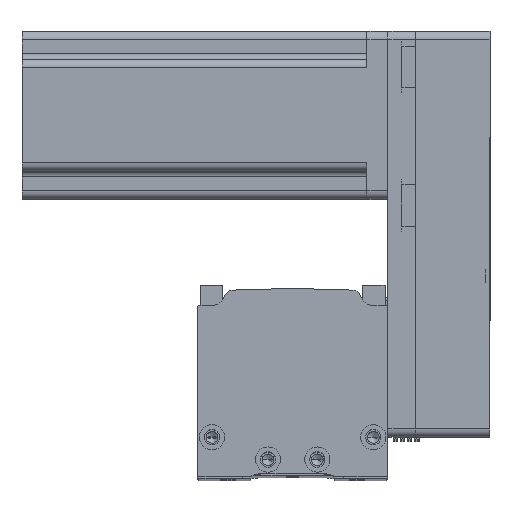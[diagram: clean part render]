
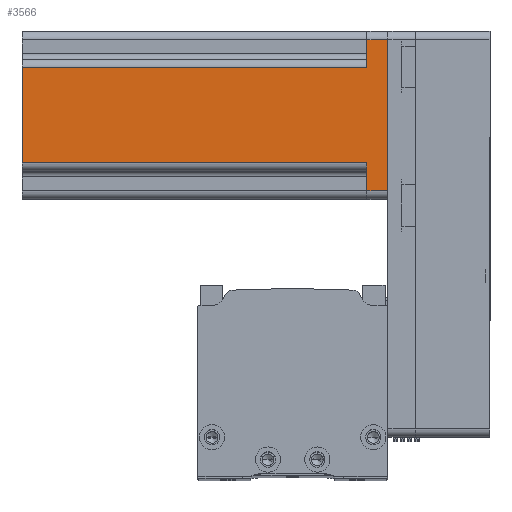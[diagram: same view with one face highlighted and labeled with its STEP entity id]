
A CAD part, top view. The second image highlights one B-rep face of the part: STEP entity #3566.
In plain terms, the highlighted planar face has unit normal (0, 0, 1) as drawn and (0, -1, 0) by its records, which use the part's own axes.
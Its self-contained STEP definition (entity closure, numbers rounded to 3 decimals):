
#801 = LINE ( 'NONE', #30341, #37247 ) ;
#912 = CARTESIAN_POINT ( 'NONE',  ( 30., -30., 130.7 ) ) ;
#1298 = DIRECTION ( 'NONE',  ( 1., 0., 0. ) ) ;
#1961 = EDGE_CURVE ( 'NONE', #22901, #7963, #28151, .T. ) ;
#2006 = VERTEX_POINT ( 'NONE', #27437 ) ;
#2857 = EDGE_CURVE ( 'NONE', #14636, #22901, #37417, .T. ) ;
#3566 = ADVANCED_FACE ( 'NONE', ( #11996 ), #7871, .F. ) ;
#4109 = CARTESIAN_POINT ( 'NONE',  ( -17., -30., 130.7 ) ) ;
#4470 = DIRECTION ( 'NONE',  ( -1., 0., 0. ) ) ;
#5075 = DIRECTION ( 'NONE',  ( 0., 0., -1. ) ) ;
#5664 = DIRECTION ( 'NONE',  ( 1., 0., 0. ) ) ;
#6023 = VECTOR ( 'NONE', #36600, 1000. ) ;
#6552 = EDGE_CURVE ( 'NONE', #7028, #2006, #15518, .T. ) ;
#7028 = VERTEX_POINT ( 'NONE', #4109 ) ;
#7824 = VECTOR ( 'NONE', #1298, 1000. ) ;
#7830 = CARTESIAN_POINT ( 'NONE',  ( 27., -30., 7.5 ) ) ;
#7871 = PLANE ( 'NONE',  #13439 ) ;
#7953 = VECTOR ( 'NONE', #12436, 1000. ) ;
#7963 = VERTEX_POINT ( 'NONE', #18345 ) ;
#9380 = ORIENTED_EDGE ( 'NONE', *, *, #2857, .T. ) ;
#9382 = VECTOR ( 'NONE', #16203, 1000. ) ;
#9630 = EDGE_CURVE ( 'NONE', #7028, #25110, #27849, .T. ) ;
#9744 = EDGE_LOOP ( 'NONE', ( #38877, #38686, #19482, #37267, #23691, #9380, #36194, #29584 ) ) ;
#9992 = LINE ( 'NONE', #39842, #26479 ) ;
#11996 = FACE_OUTER_BOUND ( 'NONE', #9744, .T. ) ;
#12436 = DIRECTION ( 'NONE',  ( 1., 0., 0. ) ) ;
#13439 = AXIS2_PLACEMENT_3D ( 'NONE', #912, #25623, #4470 ) ;
#13960 = CARTESIAN_POINT ( 'NONE',  ( -27., -30., 0. ) ) ;
#14636 = VERTEX_POINT ( 'NONE', #17655 ) ;
#15518 = LINE ( 'NONE', #33009, #42547 ) ;
#16203 = DIRECTION ( 'NONE',  ( -1., 0., 0. ) ) ;
#17255 = LINE ( 'NONE', #22502, #7824 ) ;
#17655 = CARTESIAN_POINT ( 'NONE',  ( 27., -30., 0. ) ) ;
#18345 = CARTESIAN_POINT ( 'NONE',  ( 17., -30., 7.5 ) ) ;
#19393 = EDGE_CURVE ( 'NONE', #22772, #22787, #9992, .T. ) ;
#19482 = ORIENTED_EDGE ( 'NONE', *, *, #38232, .F. ) ;
#22502 = CARTESIAN_POINT ( 'NONE',  ( -20., -30., 7.5 ) ) ;
#22772 = VERTEX_POINT ( 'NONE', #42189 ) ;
#22787 = VERTEX_POINT ( 'NONE', #13960 ) ;
#22901 = VERTEX_POINT ( 'NONE', #7830 ) ;
#23691 = ORIENTED_EDGE ( 'NONE', *, *, #26472, .T. ) ;
#25110 = VERTEX_POINT ( 'NONE', #41490 ) ;
#25623 = DIRECTION ( 'NONE',  ( 0., 1., 0. ) ) ;
#26472 = EDGE_CURVE ( 'NONE', #22787, #14636, #801, .T. ) ;
#26479 = VECTOR ( 'NONE', #29359, 1000. ) ;
#27437 = CARTESIAN_POINT ( 'NONE',  ( -17., -30., 7.5 ) ) ;
#27520 = CARTESIAN_POINT ( 'NONE',  ( 27., -30., 130.7 ) ) ;
#27849 = LINE ( 'NONE', #44187, #7953 ) ;
#28151 = LINE ( 'NONE', #40861, #9382 ) ;
#29359 = DIRECTION ( 'NONE',  ( 0., 0., -1. ) ) ;
#29584 = ORIENTED_EDGE ( 'NONE', *, *, #33656, .T. ) ;
#30341 = CARTESIAN_POINT ( 'NONE',  ( 30., -30., 0. ) ) ;
#33009 = CARTESIAN_POINT ( 'NONE',  ( -17., -30., 130.7 ) ) ;
#33656 = EDGE_CURVE ( 'NONE', #7963, #25110, #42450, .T. ) ;
#36194 = ORIENTED_EDGE ( 'NONE', *, *, #1961, .T. ) ;
#36276 = VECTOR ( 'NONE', #45397, 1000. ) ;
#36600 = DIRECTION ( 'NONE',  ( 0., 0., 1. ) ) ;
#37247 = VECTOR ( 'NONE', #5664, 1000. ) ;
#37267 = ORIENTED_EDGE ( 'NONE', *, *, #19393, .T. ) ;
#37417 = LINE ( 'NONE', #27520, #36276 ) ;
#38232 = EDGE_CURVE ( 'NONE', #22772, #2006, #17255, .T. ) ;
#38686 = ORIENTED_EDGE ( 'NONE', *, *, #6552, .T. ) ;
#38877 = ORIENTED_EDGE ( 'NONE', *, *, #9630, .F. ) ;
#39842 = CARTESIAN_POINT ( 'NONE',  ( -27., -30., 130.7 ) ) ;
#40861 = CARTESIAN_POINT ( 'NONE',  ( 20., -30., 7.5 ) ) ;
#41490 = CARTESIAN_POINT ( 'NONE',  ( 17., -30., 130.7 ) ) ;
#42189 = CARTESIAN_POINT ( 'NONE',  ( -27., -30., 7.5 ) ) ;
#42450 = LINE ( 'NONE', #43723, #6023 ) ;
#42547 = VECTOR ( 'NONE', #5075, 1000. ) ;
#43723 = CARTESIAN_POINT ( 'NONE',  ( 17., -30., 130.7 ) ) ;
#44187 = CARTESIAN_POINT ( 'NONE',  ( 30., -30., 130.7 ) ) ;
#45397 = DIRECTION ( 'NONE',  ( 0., 0., 1. ) ) ;
